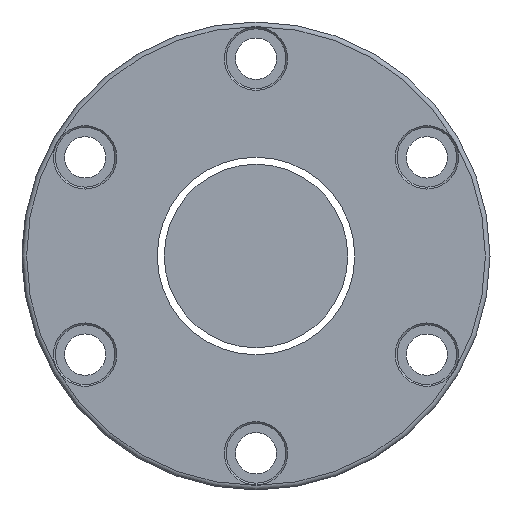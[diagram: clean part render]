
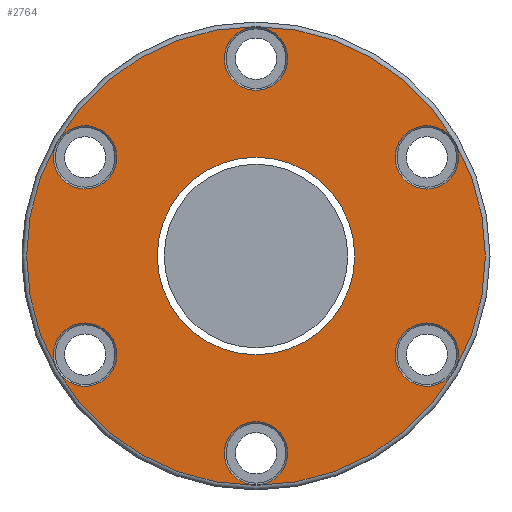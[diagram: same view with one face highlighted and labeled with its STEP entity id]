
A CAD part, left-side view. The second image highlights one B-rep face of the part: STEP entity #2764.
In plain terms, the highlighted planar face has unit normal (-1, 0, 0).
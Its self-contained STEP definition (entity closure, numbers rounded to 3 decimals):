
#9 = CARTESIAN_POINT ( 'NONE',  ( -240., 0., 86. ) ) ;
#24 = EDGE_CURVE ( 'NONE', #112, #112, #2192, .T. ) ;
#26 = CIRCLE ( 'NONE', #1570, 13.8 ) ;
#75 = DIRECTION ( 'NONE',  ( 0., 0., 1. ) ) ;
#110 = AXIS2_PLACEMENT_3D ( 'NONE', #2892, #2094, #1862 ) ;
#112 = VERTEX_POINT ( 'NONE', #368 ) ;
#116 = CARTESIAN_POINT ( 'NONE',  ( -240., 74.478, 43. ) ) ;
#161 = VERTEX_POINT ( 'NONE', #1468 ) ;
#187 = EDGE_LOOP ( 'NONE', ( #2994 ) ) ;
#216 = VERTEX_POINT ( 'NONE', #473 ) ;
#241 = EDGE_LOOP ( 'NONE', ( #2174 ) ) ;
#292 = AXIS2_PLACEMENT_3D ( 'NONE', #116, #2702, #422 ) ;
#329 = FACE_BOUND ( 'NONE', #241, .T. ) ;
#368 = CARTESIAN_POINT ( 'NONE',  ( -240., 74.478, -29.2 ) ) ;
#393 = CIRCLE ( 'NONE', #292, 13.8 ) ;
#422 = DIRECTION ( 'NONE',  ( 0., 0., 1. ) ) ;
#455 = EDGE_LOOP ( 'NONE', ( #2513 ) ) ;
#471 = EDGE_LOOP ( 'NONE', ( #511 ) ) ;
#473 = CARTESIAN_POINT ( 'NONE',  ( -240., 0., -43.05 ) ) ;
#483 = CARTESIAN_POINT ( 'NONE',  ( -240., -74.478, -43. ) ) ;
#511 = ORIENTED_EDGE ( 'NONE', *, *, #2312, .T. ) ;
#641 = EDGE_CURVE ( 'NONE', #2938, #2938, #2834, .T. ) ;
#724 = CIRCLE ( 'NONE', #2632, 43.05 ) ;
#773 = ORIENTED_EDGE ( 'NONE', *, *, #24, .T. ) ;
#778 = FACE_BOUND ( 'NONE', #455, .T. ) ;
#822 = AXIS2_PLACEMENT_3D ( 'NONE', #9, #2017, #1531 ) ;
#1039 = FACE_BOUND ( 'NONE', #2859, .T. ) ;
#1058 = CARTESIAN_POINT ( 'NONE',  ( -240., 102., 0. ) ) ;
#1163 = ORIENTED_EDGE ( 'NONE', *, *, #2555, .T. ) ;
#1260 = DIRECTION ( 'NONE',  ( 0., 0., 1. ) ) ;
#1306 = DIRECTION ( 'NONE',  ( 0., 0., 1. ) ) ;
#1311 = FACE_BOUND ( 'NONE', #2191, .T. ) ;
#1369 = EDGE_CURVE ( 'NONE', #2646, #2646, #393, .T. ) ;
#1393 = VERTEX_POINT ( 'NONE', #3185 ) ;
#1468 = CARTESIAN_POINT ( 'NONE',  ( -240., 0., 99.8 ) ) ;
#1494 = DIRECTION ( 'NONE',  ( -1., 0., 0. ) ) ;
#1531 = DIRECTION ( 'NONE',  ( 0., 0., 1. ) ) ;
#1570 = AXIS2_PLACEMENT_3D ( 'NONE', #483, #2233, #2517 ) ;
#1594 = FACE_BOUND ( 'NONE', #471, .T. ) ;
#1596 = EDGE_CURVE ( 'NONE', #1393, #1393, #2680, .T. ) ;
#1602 = CARTESIAN_POINT ( 'NONE',  ( -240., 0., 0. ) ) ;
#1673 = AXIS2_PLACEMENT_3D ( 'NONE', #3247, #1783, #1260 ) ;
#1720 = CARTESIAN_POINT ( 'NONE',  ( -240., -74.478, -29.2 ) ) ;
#1781 = CARTESIAN_POINT ( 'NONE',  ( -240., 0., -86. ) ) ;
#1783 = DIRECTION ( 'NONE',  ( 1., 0., 0. ) ) ;
#1799 = FACE_BOUND ( 'NONE', #2767, .T. ) ;
#1831 = FACE_OUTER_BOUND ( 'NONE', #187, .T. ) ;
#1862 = DIRECTION ( 'NONE',  ( 0., 0., 1. ) ) ;
#1863 = FACE_BOUND ( 'NONE', #2723, .T. ) ;
#1902 = CARTESIAN_POINT ( 'NONE',  ( -240., 74.478, 56.8 ) ) ;
#2017 = DIRECTION ( 'NONE',  ( 1., 0., 0. ) ) ;
#2061 = DIRECTION ( 'NONE',  ( 0., 0., 1. ) ) ;
#2094 = DIRECTION ( 'NONE',  ( 1., 0., 0. ) ) ;
#2100 = AXIS2_PLACEMENT_3D ( 'NONE', #1781, #3065, #2061 ) ;
#2174 = ORIENTED_EDGE ( 'NONE', *, *, #1596, .T. ) ;
#2191 = EDGE_LOOP ( 'NONE', ( #2543 ) ) ;
#2192 = CIRCLE ( 'NONE', #110, 13.8 ) ;
#2233 = DIRECTION ( 'NONE',  ( 1., 0., 0. ) ) ;
#2264 = CIRCLE ( 'NONE', #822, 13.8 ) ;
#2312 = EDGE_CURVE ( 'NONE', #161, #161, #2264, .T. ) ;
#2321 = DIRECTION ( 'NONE',  ( 1., 0., 0. ) ) ;
#2351 = AXIS2_PLACEMENT_3D ( 'NONE', #3035, #1494, #1306 ) ;
#2451 = CARTESIAN_POINT ( 'NONE',  ( -240., -74.478, 56.8 ) ) ;
#2453 = EDGE_CURVE ( 'NONE', #3040, #3040, #26, .T. ) ;
#2513 = ORIENTED_EDGE ( 'NONE', *, *, #1369, .T. ) ;
#2517 = DIRECTION ( 'NONE',  ( 0., 0., 1. ) ) ;
#2543 = ORIENTED_EDGE ( 'NONE', *, *, #2453, .T. ) ;
#2555 = EDGE_CURVE ( 'NONE', #3283, #3283, #3116, .T. ) ;
#2560 = DIRECTION ( 'NONE',  ( -1., 0., 0. ) ) ;
#2632 = AXIS2_PLACEMENT_3D ( 'NONE', #1602, #2321, #3074 ) ;
#2646 = VERTEX_POINT ( 'NONE', #1902 ) ;
#2680 = CIRCLE ( 'NONE', #2100, 13.8 ) ;
#2702 = DIRECTION ( 'NONE',  ( 1., 0., 0. ) ) ;
#2723 = EDGE_LOOP ( 'NONE', ( #1163 ) ) ;
#2764 = ADVANCED_FACE ( 'NONE', ( #1831, #329, #1311, #1863, #1594, #778, #1799, #1039 ), #2816, .T. ) ;
#2767 = EDGE_LOOP ( 'NONE', ( #773 ) ) ;
#2816 = PLANE ( 'NONE',  #2906 ) ;
#2834 = CIRCLE ( 'NONE', #2351, 100. ) ;
#2859 = EDGE_LOOP ( 'NONE', ( #2912 ) ) ;
#2892 = CARTESIAN_POINT ( 'NONE',  ( -240., 74.478, -43. ) ) ;
#2906 = AXIS2_PLACEMENT_3D ( 'NONE', #1058, #2560, #75 ) ;
#2912 = ORIENTED_EDGE ( 'NONE', *, *, #3150, .T. ) ;
#2938 = VERTEX_POINT ( 'NONE', #3169 ) ;
#2994 = ORIENTED_EDGE ( 'NONE', *, *, #641, .T. ) ;
#3035 = CARTESIAN_POINT ( 'NONE',  ( -240., 0., 0. ) ) ;
#3040 = VERTEX_POINT ( 'NONE', #1720 ) ;
#3065 = DIRECTION ( 'NONE',  ( 1., 0., 0. ) ) ;
#3074 = DIRECTION ( 'NONE',  ( 0., 0., -1. ) ) ;
#3116 = CIRCLE ( 'NONE', #1673, 13.8 ) ;
#3150 = EDGE_CURVE ( 'NONE', #216, #216, #724, .T. ) ;
#3169 = CARTESIAN_POINT ( 'NONE',  ( -240., 0., 100. ) ) ;
#3185 = CARTESIAN_POINT ( 'NONE',  ( -240., 0., -72.2 ) ) ;
#3247 = CARTESIAN_POINT ( 'NONE',  ( -240., -74.478, 43. ) ) ;
#3283 = VERTEX_POINT ( 'NONE', #2451 ) ;
